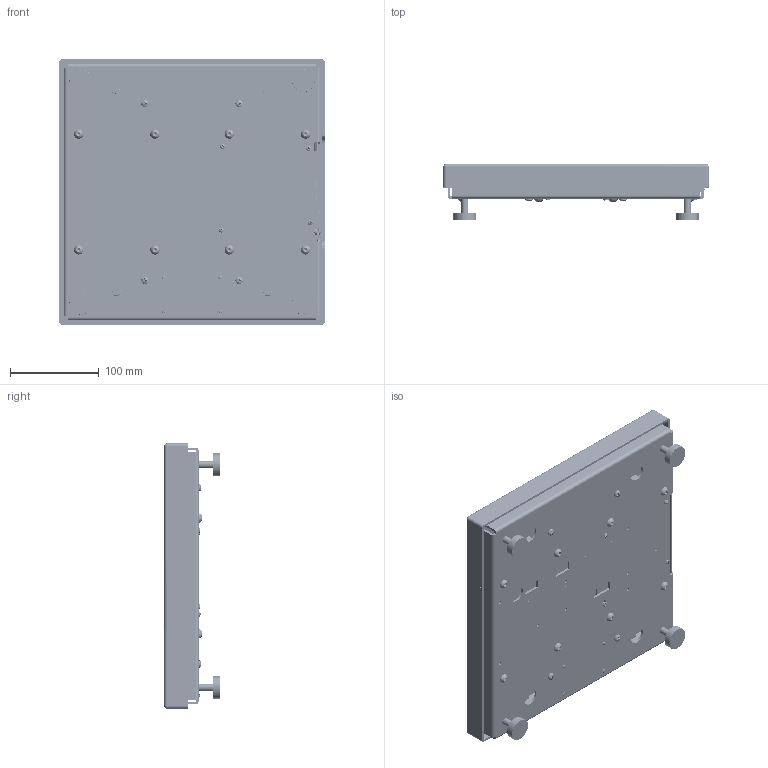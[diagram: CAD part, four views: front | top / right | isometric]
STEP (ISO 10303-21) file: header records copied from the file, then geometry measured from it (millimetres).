
FILE_DESCRIPTION (( 'STEP AP214' ), '1' );
FILE_NAME ('E-SCALE-6610-1212-33.STEP', '2019-08-29T22:12:15', ( '' ), ( '' ), 'SwSTEP 2.0', 'SolidWorks 2017', '' );
FILE_SCHEMA (( 'AUTOMOTIVE_DESIGN' ));
Length unit declared in the file: inch
Products named in the file (55): pan cross head_ai_CR-PHMS 0.164-32x0.3125x0.3125-N-A2.70; Chassis fastener Winchester Electronics A1591B; 0075293; red_green_LED; 0018546; 5126-0009-0; 0075233; 2817-0272-0_90402A146; 2814-T011_90633A005; 0075200_93505A451; 0075231_PBSH-15kg 300 X 300; 0535-0567-02-0 WO Ethernet Port; 0075172_A1 & 2; 0075294; mcv_1.5-9-g-3.81_1; 0530-0856-01-0; 2143-T013; 0075175_84-001322; 2815-0168-0_91780A534; 2814-0098-0_90633A007; 0075173_B1 & 2; 0075230_91780A198; socket button head cap screw_am_B18.3.4M - 6 x 1.0 x 20 SBHCS --N-A2.70; 0075309; flat washer type a selected narrow_ai_Selected Narrow FW 0.125; flat head screw_ai_CR-FHMS 0.164-32x0.875x0.875-N-A2.70; 0075174_1 & 2; 0075290; 0074881_PBSH-3.75kg SUB-ASSEMBLY; 0044535; Amphenol_RJHSE-5080-02-REVT1; 0530-0854-XX-0; 0075295; 0074871; 0074914_Modified By Hardy; 0075304_42-000189; 0075232_80-001903; pan cross head_ai_CR-PHMS 0.112-40x0.5x0.5-N; E-SCALE-6610-1212-33; Bivar Spacer_TO-201-040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
Assembly tree (113 placements, depth 4):
  E-SCALE-6610-1212-33
    0074914_Modified By Hardy
    0075309
    0075175_84-001322  x4
      0075172_A1 & 2
      0075174_1 & 2
      0075173_B1 & 2
    machine screw nut hex_ai_MSHXNUT 0.164-32-D-N  x4
    0074756_Modified By Hardy
    0075198  x4
    0075200_93505A451  x4
    0075290
      0075233
      0018546  x4
      0075287_C2 CHIP
      0075295  x4
        0075294
        0075293
    pan cross head_ai_CR-PHMS 0.164-32x0.3125x0.3125-N-A2.70  x4
    0074881_PBSH-3.75kg SUB-ASSEMBLY  x4
      0074871
      0044535
      0067049
      socket head cap screw_am_B18.3.1M - 5 x 0.8 x 20 Hex SHCS -- 20NHX-A2.70
    0075231_PBSH-15kg 300 X 300  x4
      0075230_91780A198
      0075232_80-001903
      flat head screw_ai_CR-FHMS 0.164-32x0.875x0.875-N-A2.70
      pan cross head_ai_CR-PHMS 0.164-32x0.3125x0.3125-N-A2.70
    socket button head cap screw_am_B18.3.4M - 6 x 1.0 x 20 SBHCS --N-A2.70  x8
    2814-0098-0_90633A007  x2
    2143-T013
    2143-T004
    flat washer type a selected narrow_ai_Selected Narrow FW 0.125  x5
    2814-T011_90633A005
    0514-0242-01-0_Rev A
    2817-0272-0_90402A146
    0535-0567-02-0 WO Ethernet Port
      6610 Bare Board
      Chassis fastener Winchester Electronics A1591B  x2
      red_green_LED
      5126-0009-0
      Amphenol_RJHSE-5080-02-REVT1
      2140-0144-09-0
        mcv_1.5-9-g-3.81_1
      Phoenix_1803646
      Bivar Spacer_TO-201-040  x4
    pan cross head_ai_CR-PHMS 0.112-40x0.5x0.5-N  x4
    2815-0169-0_91780A521  x7
    2815-0168-0_91780A534
    lock washer spring regular_ai_Regular LW 0.112  x4
    0530-0853-01-0
    0530-0856-01-0
    0530-0854-XX-0
    0075304_42-000189
    0075308
Bounding box: 298.32 x 62.96 x 298.19 mm (x, y, z)
Volume: 822449 mm3; surface area: 651267.6 mm2
Topology: 673 solids, 676 shells, 18804 faces, 48499 edges, 31582 vertices
Faces by surface type: plane 9704, bspline 5470, cylinder 2462, cone 928, torus 166, sphere 74
Entity records: 692562 total; most frequent: CARTESIAN_POINT 199539, ORIENTED_EDGE 80392, DIRECTION 51128, EDGE_CURVE 40201, VERTEX_POINT 26476, LINE 25036, VECTOR 25036, EDGE_LOOP 16463
